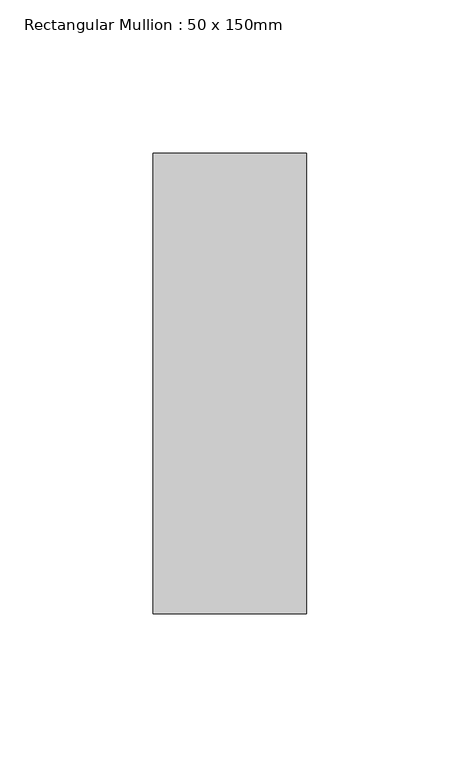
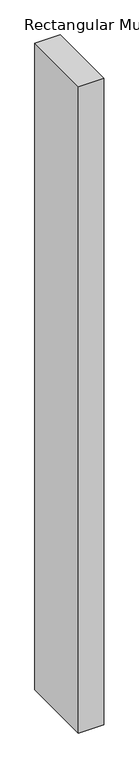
"""IFC4 building model written with IfcOpenShell, lengths in millimetres: member geometry, Rectangular Mullion : 50 x 150mm."""

import ifcopenshell
import ifcopenshell.guid

model = None  # the IFC model being written
_history = None  # IfcOwnerHistory: only IFC2X3 demands one
_inside = {}  # id of a spatial element -> (the spatial element, [elements in it])
_under = {}  # id of a project, library or spatial element -> (it, [spatial elements below it])
_declared = {}  # id of a project -> (the project, [libraries it declares])
_typed = {}  # id of a type object -> (the type object, [elements of that type])
_made_of = {}  # id of a material, layer set ... -> (it, [elements and type objects made of it])


def new_model(schema):
    """Start an empty IFC model of exactly this schema.

    Asked for "IFC4X3", IfcOpenShell would pick the latest addendum, in which some entities
    have other attributes; the version numbers below select the first issue.
    IFC2X3 requires an IfcOwnerHistory on every rooted entity: one is made here for all.
    """
    global model, _history
    if schema == "IFC4X3":
        model = ifcopenshell.file(schema_version=(4, 3, 0, 0))
    else:
        model = ifcopenshell.file(schema=schema)
    _inside.clear()
    _under.clear()
    _declared.clear()
    _typed.clear()
    _made_of.clear()
    _history = None
    if model.schema == "IFC2X3":
        org = make("IfcOrganization", Name="unknown")
        user = make(
            "IfcPersonAndOrganization",
            ThePerson=make("IfcPerson", FamilyName="unknown"),
            TheOrganization=org,
        )
        app = make(
            "IfcApplication",
            ApplicationDeveloper=org,
            Version="unknown",
            ApplicationFullName="unknown",
            ApplicationIdentifier="unknown",
        )
        _history = make(
            "IfcOwnerHistory",
            OwningUser=user,
            OwningApplication=app,
            ChangeAction="ADDED",
            CreationDate=0,
        )
    return model


def make(cls, **values):
    """One entity of the class cls with the attributes given. An attribute that is None is left unset."""
    return model.create_entity(
        cls, **{name: value for name, value in values.items() if value is not None}
    )


def rooted(cls, **values):
    """An entity with a GlobalId (a new one), such as an element, a storey or a relation."""
    return make(cls, GlobalId=ifcopenshell.guid.new(), OwnerHistory=_history, **values)


def si_unit(unit_type, name, prefix=None):
    """IfcSIUnit, for example si_unit("LENGTHUNIT", "METRE", prefix="MILLI")."""
    return make("IfcSIUnit", UnitType=unit_type, Prefix=prefix, Name=name)


def assignment(units):
    """IfcUnitAssignment: the units of a project."""
    return None if units is None else make("IfcUnitAssignment", Units=units)


def point(xyz):
    """IfcCartesianPoint."""
    return None if xyz is None else make("IfcCartesianPoint", Coordinates=xyz)


def direction(xyz):
    """IfcDirection."""
    return None if xyz is None else make("IfcDirection", DirectionRatios=xyz)


def frame(location, z_axis=None, x_axis=None):
    """IfcAxis2Placement3D, a coordinate frame: its origin and axes. An axis left out is left unset."""
    return make(
        "IfcAxis2Placement3D",
        Location=point(location),
        Axis=direction(z_axis),
        RefDirection=direction(x_axis),
    )


def origin():
    """The frame at (0, 0, 0) with its axes left unset."""
    return frame((0.0, 0.0, 0.0))


def place(relative_to, where):
    """IfcLocalPlacement: puts the frame where relative to a parent placement (None: the world)."""
    return make(
        "IfcLocalPlacement", PlacementRelTo=relative_to, RelativePlacement=where
    )


def context(
    kind, dimensions, precision=None, world=None, true_north=None, identifier=None
):
    """IfcGeometricRepresentationContext, for example the 3D "Model" context."""
    return make(
        "IfcGeometricRepresentationContext",
        ContextIdentifier=identifier,
        ContextType=kind,
        CoordinateSpaceDimension=dimensions,
        Precision=precision,
        WorldCoordinateSystem=world,
        TrueNorth=true_north,
    )


def project(units=None, contexts=None):
    """IfcProject with its units and contexts."""
    return rooted(
        "IfcProject",
        Name="project",
        RepresentationContexts=contexts,
        UnitsInContext=assignment(units),
    )


def spatial(cls, under=None, at=None, **own):
    """A site, building, storey or space (cls), placed at a placement, below another one or the project."""
    s = rooted(cls, ObjectPlacement=at, **own)
    if under is not None:
        _under.setdefault(under.id(), (under, []))[1].append(s)
    return s


def polyline(points):
    """IfcPolyline through the points."""
    return make("IfcPolyline", Points=[point(p) for p in points])


def outline(outer, holes=None, kind="AREA"):
    """IfcArbitraryClosedProfileDef: a profile drawn as a closed curve; with holes, ...WithVoids."""
    if holes is None:
        return make("IfcArbitraryClosedProfileDef", ProfileType=kind, OuterCurve=outer)
    return make(
        "IfcArbitraryProfileDefWithVoids",
        ProfileType=kind,
        OuterCurve=outer,
        InnerCurves=holes,
    )


def extrude(swept, where, along, depth):
    """IfcExtrudedAreaSolid: the profile swept, set in the frame where, extruded along a direction by depth."""
    return make(
        "IfcExtrudedAreaSolid",
        SweptArea=swept,
        Position=where,
        ExtrudedDirection=direction(along),
        Depth=depth,
    )


def shape(context_of_items, identifier, shape_type, items):
    """IfcShapeRepresentation: the items that make up one representation, for example the "Body"."""
    return make(
        "IfcShapeRepresentation",
        ContextOfItems=context_of_items,
        RepresentationIdentifier=identifier,
        RepresentationType=shape_type,
        Items=items,
    )


def source(mapping_origin, context_of_items, identifier, shape_type, items):
    """IfcRepresentationMap: a shape defined once, which mapped items show again and again."""
    return make(
        "IfcRepresentationMap",
        MappingOrigin=mapping_origin,
        MappedRepresentation=shape(context_of_items, identifier, shape_type, items),
    )


def transform(
    local_origin,
    x_axis=None,
    y_axis=None,
    z_axis=None,
    scale=None,
    scale2=None,
    scale3=None,
    uniform=True,
):
    """IfcCartesianTransformationOperator3D, or its non-uniform kind. x_axis, y_axis, z_axis: its Axis1, 2, 3."""
    if uniform:
        return make(
            "IfcCartesianTransformationOperator3D",
            Axis1=direction(x_axis),
            Axis2=direction(y_axis),
            LocalOrigin=point(local_origin),
            Scale=scale,
            Axis3=direction(z_axis),
        )
    return make(
        "IfcCartesianTransformationOperator3DnonUniform",
        Axis1=direction(x_axis),
        Axis2=direction(y_axis),
        LocalOrigin=point(local_origin),
        Scale=scale,
        Axis3=direction(z_axis),
        Scale2=scale2,
        Scale3=scale3,
    )


def mapped(mapping_source, mapping_target):
    """IfcMappedItem: shows the shape of a source again, moved by a transform."""
    return make(
        "IfcMappedItem", MappingSource=mapping_source, MappingTarget=mapping_target
    )


def made_of(thing, what):
    """Note that an element or type object is made of a material, layer set ...; save() writes the relation."""
    if what is not None:
        _made_of.setdefault(what.id(), (what, []))[1].append(thing)
    return thing


def element(
    cls,
    number,
    at=None,
    inside=None,
    cuts=None,
    type_object=None,
    material=None,
    context=None,
    identifier="Body",
    shape_type=None,
    held_by="IfcProductDefinitionShape",
    body=None,
    shapes=None,
    **own,
):
    """One element of the class cls, such as IfcWall. Its Tag is "e" and its number.

    at: its placement. inside: the storey or other place that contains it. cuts: it is an
    opening in that element (IfcRelVoidsElement). A single representation is given by context,
    identifier, shape_type and body (its items); several are given by shapes. held_by: the class
    of the entity that holds the representations. save() writes the other relations.
    """
    e = rooted(cls, Tag="e%d" % number, ObjectPlacement=at, **own)
    if body is not None:
        shapes = [shape(context, identifier, shape_type, body)]
    if shapes is not None:
        e.Representation = make(held_by, Representations=shapes)
    if inside is not None:
        _inside.setdefault(inside.id(), (inside, []))[1].append(e)
    if cuts is not None:
        rooted(
            "IfcRelVoidsElement", RelatingBuildingElement=cuts, RelatedOpeningElement=e
        )
    if type_object is not None:
        _typed.setdefault(type_object.id(), (type_object, []))[1].append(e)
    return made_of(e, material)


def aggregate(whole, parts):
    """IfcRelAggregates: a whole, such as a stair, and the parts it consists of."""
    return rooted("IfcRelAggregates", RelatingObject=whole, RelatedObjects=parts)


def save(model, path):
    """Write the relations noted so far, then the file.

    IfcRelAggregates (storeys below a building ...), IfcRelContainedInSpatialStructure (elements
    in a storey), IfcRelDefinesByType, IfcRelAssociatesMaterial and IfcRelDeclares: one each for
    every whole, place, type object, material and project.
    """
    for whole, parts in _under.values():
        aggregate(whole, parts)
    for where, things in _inside.values():
        rooted(
            "IfcRelContainedInSpatialStructure",
            RelatedElements=things,
            RelatingStructure=where,
        )
    for kind, things in _typed.values():
        rooted("IfcRelDefinesByType", RelatedObjects=things, RelatingType=kind)
    for what, things in _made_of.values():
        rooted("IfcRelAssociatesMaterial", RelatedObjects=things, RelatingMaterial=what)
    for by, libraries in _declared.values():
        rooted("IfcRelDeclares", RelatingContext=by, RelatedDefinitions=libraries)
    model.write(path)


def rectangular_mullion_50_x_150mm_39d405a6(model_context):
    return source(origin(), model_context, "Body", "SweptSolid", [
        extrude(outline(polyline([(25.0, 75.0), (25.0, -75.0), (-25.0, -75.0), (-25.0, 75.0), (25.0, 75.0)])), frame((0.0, 0.0, -1359.2800498), z_axis=(0.0, 0.0, 1.0), x_axis=(1.0, 0.0, 0.0)), (0.0, 0.0, 1.0), 1359.2800498),
    ])


if __name__ == "__main__":
    model = new_model("IFC4")
    model_context = context("Model", 3, world=origin())
    ifc_project = project(units=[si_unit("LENGTHUNIT", "METRE", prefix="MILLI")], contexts=[model_context])
    site = spatial("IfcSite", under=ifc_project)
    building = spatial("IfcBuilding", under=site)
    placement = place(None, origin())
    rectangular_mullion_50_x_150mm_shape = rectangular_mullion_50_x_150mm_39d405a6(model_context)
    element("IfcMember", 1, ObjectType="Rectangular Mullion : 50 x 150mm", at=placement, inside=building, context=model_context, shape_type="MappedRepresentation", body=[
        mapped(rectangular_mullion_50_x_150mm_shape, transform((0.0, 0.0, 0.0), x_axis=(1.0, 0.0, 0.0), y_axis=(0.0, 1.0, 0.0), z_axis=(0.0, 0.0, 1.0))),
    ])
    save(model, "model.ifc")
